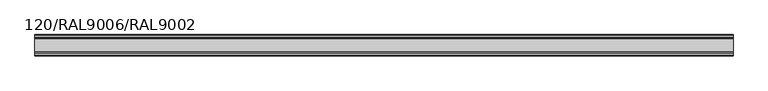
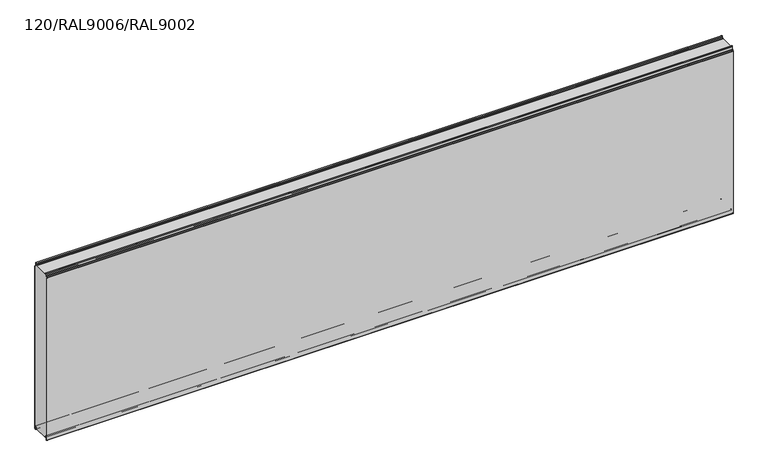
"""IFC4 building model written with IfcOpenShell, lengths in millimetres: plate geometry, TR_C_H_FTV_Panel : 120/RAL9006/RAL9002."""

import ifcopenshell
import ifcopenshell.guid

model = None  # the IFC model being written
_history = None  # IfcOwnerHistory: only IFC2X3 demands one
_inside = {}  # id of a spatial element -> (the spatial element, [elements in it])
_under = {}  # id of a project, library or spatial element -> (it, [spatial elements below it])
_declared = {}  # id of a project -> (the project, [libraries it declares])
_typed = {}  # id of a type object -> (the type object, [elements of that type])
_made_of = {}  # id of a material, layer set ... -> (it, [elements and type objects made of it])


def new_model(schema):
    """Start an empty IFC model of exactly this schema.

    Asked for "IFC4X3", IfcOpenShell would pick the latest addendum, in which some entities
    have other attributes; the version numbers below select the first issue.
    IFC2X3 requires an IfcOwnerHistory on every rooted entity: one is made here for all.
    """
    global model, _history
    if schema == "IFC4X3":
        model = ifcopenshell.file(schema_version=(4, 3, 0, 0))
    else:
        model = ifcopenshell.file(schema=schema)
    _inside.clear()
    _under.clear()
    _declared.clear()
    _typed.clear()
    _made_of.clear()
    _history = None
    if model.schema == "IFC2X3":
        org = make("IfcOrganization", Name="unknown")
        user = make(
            "IfcPersonAndOrganization",
            ThePerson=make("IfcPerson", FamilyName="unknown"),
            TheOrganization=org,
        )
        app = make(
            "IfcApplication",
            ApplicationDeveloper=org,
            Version="unknown",
            ApplicationFullName="unknown",
            ApplicationIdentifier="unknown",
        )
        _history = make(
            "IfcOwnerHistory",
            OwningUser=user,
            OwningApplication=app,
            ChangeAction="ADDED",
            CreationDate=0,
        )
    return model


def make(cls, **values):
    """One entity of the class cls with the attributes given. An attribute that is None is left unset."""
    return model.create_entity(
        cls, **{name: value for name, value in values.items() if value is not None}
    )


def rooted(cls, **values):
    """An entity with a GlobalId (a new one), such as an element, a storey or a relation."""
    return make(cls, GlobalId=ifcopenshell.guid.new(), OwnerHistory=_history, **values)


def si_unit(unit_type, name, prefix=None):
    """IfcSIUnit, for example si_unit("LENGTHUNIT", "METRE", prefix="MILLI")."""
    return make("IfcSIUnit", UnitType=unit_type, Prefix=prefix, Name=name)


def assignment(units):
    """IfcUnitAssignment: the units of a project."""
    return None if units is None else make("IfcUnitAssignment", Units=units)


def point(xyz):
    """IfcCartesianPoint."""
    return None if xyz is None else make("IfcCartesianPoint", Coordinates=xyz)


def direction(xyz):
    """IfcDirection."""
    return None if xyz is None else make("IfcDirection", DirectionRatios=xyz)


def frame(location, z_axis=None, x_axis=None):
    """IfcAxis2Placement3D, a coordinate frame: its origin and axes. An axis left out is left unset."""
    return make(
        "IfcAxis2Placement3D",
        Location=point(location),
        Axis=direction(z_axis),
        RefDirection=direction(x_axis),
    )


def frame_2d(location, x_axis=None):
    """IfcAxis2Placement2D, a coordinate frame in the plane: its origin and x axis."""
    return make(
        "IfcAxis2Placement2D", Location=point(location), RefDirection=direction(x_axis)
    )


def origin():
    """The frame at (0, 0, 0) with its axes left unset."""
    return frame((0.0, 0.0, 0.0))


def place(relative_to, where):
    """IfcLocalPlacement: puts the frame where relative to a parent placement (None: the world)."""
    return make(
        "IfcLocalPlacement", PlacementRelTo=relative_to, RelativePlacement=where
    )


def context(
    kind, dimensions, precision=None, world=None, true_north=None, identifier=None
):
    """IfcGeometricRepresentationContext, for example the 3D "Model" context."""
    return make(
        "IfcGeometricRepresentationContext",
        ContextIdentifier=identifier,
        ContextType=kind,
        CoordinateSpaceDimension=dimensions,
        Precision=precision,
        WorldCoordinateSystem=world,
        TrueNorth=true_north,
    )


def project(units=None, contexts=None):
    """IfcProject with its units and contexts."""
    return rooted(
        "IfcProject",
        Name="project",
        RepresentationContexts=contexts,
        UnitsInContext=assignment(units),
    )


def spatial(cls, under=None, at=None, **own):
    """A site, building, storey or space (cls), placed at a placement, below another one or the project."""
    s = rooted(cls, ObjectPlacement=at, **own)
    if under is not None:
        _under.setdefault(under.id(), (under, []))[1].append(s)
    return s


def polyline(points):
    """IfcPolyline through the points."""
    return make("IfcPolyline", Points=[point(p) for p in points])


def circle_curve(where, radius):
    """IfcCircle in the frame where."""
    return make("IfcCircle", Position=where, Radius=radius)


def trimmed(basis, trim1, trim2, sense, master):
    """IfcTrimmedCurve: the piece of a basis curve between two trims."""
    return make(
        "IfcTrimmedCurve",
        BasisCurve=basis,
        Trim1=trim1,
        Trim2=trim2,
        SenseAgreement=sense,
        MasterRepresentation=master,
    )


def segment(curve, same_sense, transition):
    """IfcCompositeCurveSegment."""
    return make(
        "IfcCompositeCurveSegment",
        Transition=transition,
        SameSense=same_sense,
        ParentCurve=curve,
    )


def composite_curve(segments, self_intersect=None):
    """IfcCompositeCurve: segments joined end to end."""
    return make("IfcCompositeCurve", Segments=segments, SelfIntersect=self_intersect)


def outline(outer, holes=None, kind="AREA"):
    """IfcArbitraryClosedProfileDef: a profile drawn as a closed curve; with holes, ...WithVoids."""
    if holes is None:
        return make("IfcArbitraryClosedProfileDef", ProfileType=kind, OuterCurve=outer)
    return make(
        "IfcArbitraryProfileDefWithVoids",
        ProfileType=kind,
        OuterCurve=outer,
        InnerCurves=holes,
    )


def extrude(swept, where, along, depth):
    """IfcExtrudedAreaSolid: the profile swept, set in the frame where, extruded along a direction by depth."""
    return make(
        "IfcExtrudedAreaSolid",
        SweptArea=swept,
        Position=where,
        ExtrudedDirection=direction(along),
        Depth=depth,
    )


def shape(context_of_items, identifier, shape_type, items):
    """IfcShapeRepresentation: the items that make up one representation, for example the "Body"."""
    return make(
        "IfcShapeRepresentation",
        ContextOfItems=context_of_items,
        RepresentationIdentifier=identifier,
        RepresentationType=shape_type,
        Items=items,
    )


def source(mapping_origin, context_of_items, identifier, shape_type, items):
    """IfcRepresentationMap: a shape defined once, which mapped items show again and again."""
    return make(
        "IfcRepresentationMap",
        MappingOrigin=mapping_origin,
        MappedRepresentation=shape(context_of_items, identifier, shape_type, items),
    )


def transform(
    local_origin,
    x_axis=None,
    y_axis=None,
    z_axis=None,
    scale=None,
    scale2=None,
    scale3=None,
    uniform=True,
):
    """IfcCartesianTransformationOperator3D, or its non-uniform kind. x_axis, y_axis, z_axis: its Axis1, 2, 3."""
    if uniform:
        return make(
            "IfcCartesianTransformationOperator3D",
            Axis1=direction(x_axis),
            Axis2=direction(y_axis),
            LocalOrigin=point(local_origin),
            Scale=scale,
            Axis3=direction(z_axis),
        )
    return make(
        "IfcCartesianTransformationOperator3DnonUniform",
        Axis1=direction(x_axis),
        Axis2=direction(y_axis),
        LocalOrigin=point(local_origin),
        Scale=scale,
        Axis3=direction(z_axis),
        Scale2=scale2,
        Scale3=scale3,
    )


def mapped(mapping_source, mapping_target):
    """IfcMappedItem: shows the shape of a source again, moved by a transform."""
    return make(
        "IfcMappedItem", MappingSource=mapping_source, MappingTarget=mapping_target
    )


def made_of(thing, what):
    """Note that an element or type object is made of a material, layer set ...; save() writes the relation."""
    if what is not None:
        _made_of.setdefault(what.id(), (what, []))[1].append(thing)
    return thing


def element(
    cls,
    number,
    at=None,
    inside=None,
    cuts=None,
    type_object=None,
    material=None,
    context=None,
    identifier="Body",
    shape_type=None,
    held_by="IfcProductDefinitionShape",
    body=None,
    shapes=None,
    **own,
):
    """One element of the class cls, such as IfcWall. Its Tag is "e" and its number.

    at: its placement. inside: the storey or other place that contains it. cuts: it is an
    opening in that element (IfcRelVoidsElement). A single representation is given by context,
    identifier, shape_type and body (its items); several are given by shapes. held_by: the class
    of the entity that holds the representations. save() writes the other relations.
    """
    e = rooted(cls, Tag="e%d" % number, ObjectPlacement=at, **own)
    if body is not None:
        shapes = [shape(context, identifier, shape_type, body)]
    if shapes is not None:
        e.Representation = make(held_by, Representations=shapes)
    if inside is not None:
        _inside.setdefault(inside.id(), (inside, []))[1].append(e)
    if cuts is not None:
        rooted(
            "IfcRelVoidsElement", RelatingBuildingElement=cuts, RelatedOpeningElement=e
        )
    if type_object is not None:
        _typed.setdefault(type_object.id(), (type_object, []))[1].append(e)
    return made_of(e, material)


def aggregate(whole, parts):
    """IfcRelAggregates: a whole, such as a stair, and the parts it consists of."""
    return rooted("IfcRelAggregates", RelatingObject=whole, RelatedObjects=parts)


def save(model, path):
    """Write the relations noted so far, then the file.

    IfcRelAggregates (storeys below a building ...), IfcRelContainedInSpatialStructure (elements
    in a storey), IfcRelDefinesByType, IfcRelAssociatesMaterial and IfcRelDeclares: one each for
    every whole, place, type object, material and project.
    """
    for whole, parts in _under.values():
        aggregate(whole, parts)
    for where, things in _inside.values():
        rooted(
            "IfcRelContainedInSpatialStructure",
            RelatedElements=things,
            RelatingStructure=where,
        )
    for kind, things in _typed.values():
        rooted("IfcRelDefinesByType", RelatedObjects=things, RelatingType=kind)
    for what, things in _made_of.values():
        rooted("IfcRelAssociatesMaterial", RelatedObjects=things, RelatingMaterial=what)
    for by, libraries in _declared.values():
        rooted("IfcRelDeclares", RelatingContext=by, RelatedDefinitions=libraries)
    model.write(path)


def plate_120_ral9006_ral9002_46c4dbfd(model_context):
    return source(origin(), model_context, "Body", "SweptSolid", [
        extrude(outline(composite_curve([segment(polyline([(-0.8, 14.4000012), (-9.45, 14.4000012)]), True, "CONTINUOUS"), segment(trimmed(circle_curve(frame_2d((-9.45, 10.1500012)), 4.25), [point((-9.45, 14.4000012))], [point((-13.635433, 10.8880059))], True, "CARTESIAN"), True, "CONTINUOUS"), segment(polyline([(-13.635433, 10.8880059), (-14.7022582, 4.837739)]), True, "CONTINUOUS"), segment(trimmed(circle_curve(frame_2d((-17.6074411, 5.3500012)), 2.95), [point((-14.7022582, 4.837739))], [point((-17.6074411, 2.4000012))], False, "CARTESIAN"), True, "CONTINUOUS"), segment(polyline([(-17.6074411, 2.4000012), (-23.7, 2.4000012), (-23.7, 1.2e-06), (-96.3, 1.2e-06), (-96.3, 2.4000012), (-102.3925589, 2.4000012)]), True, "CONTINUOUS"), segment(trimmed(circle_curve(frame_2d((-102.3925589, 5.3500012)), 2.95), [point((-102.3925589, 2.4000012))], [point((-105.2977418, 4.837739))], False, "CARTESIAN"), True, "CONTINUOUS"), segment(polyline([(-105.2977418, 4.837739), (-106.364567, 10.8880059)]), True, "CONTINUOUS"), segment(trimmed(circle_curve(frame_2d((-110.55, 10.1500012)), 4.25), [point((-106.364567, 10.8880059))], [point((-110.55, 14.4000012))], True, "CARTESIAN"), True, "CONTINUOUS"), segment(polyline([(-110.55, 14.4000012), (-119.2, 14.4000012), (-119.2, 984.3218266)]), True, "CONTINUOUS"), segment(trimmed(circle_curve(frame_2d((-117.0, 984.3218266)), 2.2), [point((-119.2, 984.3218266))], [point((-118.5556349, 985.8774615))], False, "CARTESIAN"), True, "CONTINUOUS"), segment(polyline([(-118.5556349, 985.8774615), (-114.1665476, 990.2665488)]), True, "CONTINUOUS"), segment(trimmed(circle_curve(frame_2d((-116.5, 992.6000012)), 3.3), [point((-114.1665476, 990.2665488))], [point((-113.2, 992.6000012))], True, "CARTESIAN"), True, "CONTINUOUS"), segment(polyline([(-113.2, 992.6000012), (-113.2, 1000.0), (-6.8, 1000.0), (-6.8, 992.6000012)]), True, "CONTINUOUS"), segment(trimmed(circle_curve(frame_2d((-3.5, 992.6000012)), 3.3), [point((-6.8, 992.6000012))], [point((-5.8334524, 990.2665488))], True, "CARTESIAN"), True, "CONTINUOUS"), segment(polyline([(-5.8334524, 990.2665488), (-1.4443651, 985.8774615)]), True, "CONTINUOUS"), segment(trimmed(circle_curve(frame_2d((-3.0, 984.3218266)), 2.2), [point((-1.4443651, 985.8774615))], [point((-0.8, 984.3218266))], False, "CARTESIAN"), True, "CONTINUOUS"), segment(polyline([(-0.8, 984.3218266), (-0.8, 14.4000012)]), True, "CONTINUOUS")], self_intersect=False)), frame((-1980.0, 0.0, 0.0), z_axis=(1.0, 0.0, 0.0), x_axis=(0.0, 1.0, 0.0)), (0.0, 0.0, 1.0), 3960.0),
        extrude(outline(composite_curve([segment(polyline([(-21.0, 2.4000012), (-17.6074411, 2.4000012)]), True, "CONTINUOUS"), segment(trimmed(circle_curve(frame_2d((-17.6074411, 5.3500012)), 2.95), [point((-17.6074411, 2.4000012))], [point((-14.7022582, 4.837739))], True, "CARTESIAN"), True, "CONTINUOUS"), segment(polyline([(-14.7022582, 4.837739), (-13.635433, 10.8880059)]), True, "CONTINUOUS"), segment(trimmed(circle_curve(frame_2d((-9.45, 10.1500012)), 4.25), [point((-13.635433, 10.8880059))], [point((-5.2, 10.1500012))], False, "CARTESIAN"), True, "CONTINUOUS"), segment(polyline([(-5.2, 10.1500012), (-5.2, -7.4499988)]), True, "CONTINUOUS"), segment(trimmed(circle_curve(frame_2d((-4.05, -7.4499988)), 1.15), [point((-5.2, -7.4499988))], [point((-3.2368272, -8.2631716))], True, "CARTESIAN"), True, "CONTINUOUS"), segment(polyline([(-3.2368272, -8.2631716), (-1.3711418, -6.3974862)]), True, "CONTINUOUS"), segment(trimmed(circle_curve(frame_2d((-2.75, -5.018628)), 1.95), [point((-1.3711418, -6.3974862))], [point((-0.8, -5.018628))], True, "CARTESIAN"), True, "CONTINUOUS"), segment(polyline([(-0.8, -5.018628), (-0.8, 984.3218266)]), True, "CONTINUOUS"), segment(trimmed(circle_curve(frame_2d((-3.0, 984.3218266)), 2.2), [point((-0.8, 984.3218266))], [point((-1.4443651, 985.8774615))], True, "CARTESIAN"), True, "CONTINUOUS"), segment(polyline([(-1.4443651, 985.8774615), (-5.8334524, 990.2665488)]), True, "CONTINUOUS"), segment(trimmed(circle_curve(frame_2d((-3.5, 992.6000012)), 3.3), [point((-5.8334524, 990.2665488))], [point((-6.8, 992.6000012))], False, "CARTESIAN"), True, "CONTINUOUS"), segment(polyline([(-6.8, 992.6000012), (-6.8, 1007.3500012)]), True, "CONTINUOUS"), segment(trimmed(circle_curve(frame_2d((-9.25, 1007.3500012)), 2.45), [point((-6.8, 1007.3500012))], [point((-11.662779, 1007.7754392))], True, "CARTESIAN"), True, "CONTINUOUS"), segment(polyline([(-11.662779, 1007.7754392), (-12.4060919, 1003.559902)]), True, "CONTINUOUS"), segment(trimmed(circle_curve(frame_2d((-16.8869672, 1004.3500012)), 4.55), [point((-12.4060919, 1003.559902))], [point((-16.8869672, 999.8000012))], False, "CARTESIAN"), True, "CONTINUOUS"), segment(polyline([(-16.8869672, 999.8000012), (-21.0, 999.8000012), (-21.0, 1000.6000012), (-16.8869672, 1000.6000012)]), True, "CONTINUOUS"), segment(trimmed(circle_curve(frame_2d((-16.8869672, 1004.3500012)), 3.75), [point((-16.8869672, 1000.6000012))], [point((-13.1939382, 1003.6988205))], True, "CARTESIAN"), True, "CONTINUOUS"), segment(polyline([(-13.1939382, 1003.6988205), (-12.4506252, 1007.9143577)]), True, "CONTINUOUS"), segment(trimmed(circle_curve(frame_2d((-9.25, 1007.3500012)), 3.25), [point((-12.4506252, 1007.9143577))], [point((-6.0, 1007.3500012))], False, "CARTESIAN"), True, "CONTINUOUS"), segment(polyline([(-6.0, 1007.3500012), (-6.0, 992.6000012)]), True, "CONTINUOUS"), segment(trimmed(circle_curve(frame_2d((-3.5, 992.6000012)), 2.5), [point((-6.0, 992.6000012))], [point((-5.267767, 990.8322342))], True, "CARTESIAN"), True, "CONTINUOUS"), segment(polyline([(-5.267767, 990.8322342), (-0.8786797, 986.4431469)]), True, "CONTINUOUS"), segment(trimmed(circle_curve(frame_2d((-3.0, 984.3218266)), 3.0), [point((-0.8786797, 986.4431469))], [point((0.0, 984.3218266))], False, "CARTESIAN"), True, "CONTINUOUS"), segment(polyline([(0.0, 984.3218266), (0.0, -5.018628)]), True, "CONTINUOUS"), segment(trimmed(circle_curve(frame_2d((-2.75, -5.018628)), 2.75), [point((0.0, -5.018628))], [point((-0.8054564, -6.9631716))], False, "CARTESIAN"), True, "CONTINUOUS"), segment(polyline([(-0.8054564, -6.9631716), (-2.6711418, -8.8288571)]), True, "CONTINUOUS"), segment(trimmed(circle_curve(frame_2d((-4.05, -7.4499988)), 1.95), [point((-2.6711418, -8.8288571))], [point((-6.0, -7.4499988))], False, "CARTESIAN"), True, "CONTINUOUS"), segment(polyline([(-6.0, -7.4499988), (-6.0, 10.1500012)]), True, "CONTINUOUS"), segment(trimmed(circle_curve(frame_2d((-9.45, 10.1500012)), 3.45), [point((-6.0, 10.1500012))], [point((-12.8475867, 10.7490874))], True, "CARTESIAN"), True, "CONTINUOUS"), segment(polyline([(-12.8475867, 10.7490874), (-13.914412, 4.6988205)]), True, "CONTINUOUS"), segment(trimmed(circle_curve(frame_2d((-17.6074411, 5.3500012)), 3.75), [point((-13.914412, 4.6988205))], [point((-17.6074411, 1.6000012))], False, "CARTESIAN"), True, "CONTINUOUS"), segment(polyline([(-17.6074411, 1.6000012), (-21.0, 1.6000012), (-21.0, 2.4000012)]), True, "CONTINUOUS")], self_intersect=False)), frame((-1980.0, 0.0, 0.0), z_axis=(1.0, 0.0, 0.0), x_axis=(0.0, 1.0, 0.0)), (0.0, 0.0, 1.0), 3960.0),
        extrude(outline(composite_curve([segment(trimmed(circle_curve(frame_2d((-103.1130328, 1004.3500012)), 4.55), [point((-103.1130328, 999.8000012))], [point((-107.5939081, 1003.559902))], False, "CARTESIAN"), True, "CONTINUOUS"), segment(polyline([(-107.5939081, 1003.559902), (-108.337221, 1007.7754392)]), True, "CONTINUOUS"), segment(trimmed(circle_curve(frame_2d((-110.75, 1007.3500012)), 2.45), [point((-108.337221, 1007.7754392))], [point((-113.2, 1007.3500012))], True, "CARTESIAN"), True, "CONTINUOUS"), segment(polyline([(-113.2, 1007.3500012), (-113.2, 992.6000012)]), True, "CONTINUOUS"), segment(trimmed(circle_curve(frame_2d((-116.5, 992.6000012)), 3.3), [point((-113.2, 992.6000012))], [point((-114.1665476, 990.2665488))], False, "CARTESIAN"), True, "CONTINUOUS"), segment(polyline([(-114.1665476, 990.2665488), (-118.5556349, 985.8774615)]), True, "CONTINUOUS"), segment(trimmed(circle_curve(frame_2d((-117.0, 984.3218266)), 2.2), [point((-118.5556349, 985.8774615))], [point((-119.2, 984.3218266))], True, "CARTESIAN"), True, "CONTINUOUS"), segment(polyline([(-119.2, 984.3218266), (-119.2, -5.018628)]), True, "CONTINUOUS"), segment(trimmed(circle_curve(frame_2d((-117.25, -5.018628)), 1.95), [point((-119.2, -5.018628))], [point((-118.6288582, -6.3974862))], True, "CARTESIAN"), True, "CONTINUOUS"), segment(polyline([(-118.6288582, -6.3974862), (-116.7631728, -8.2631716)]), True, "CONTINUOUS"), segment(trimmed(circle_curve(frame_2d((-115.95, -7.4499988)), 1.15), [point((-116.7631728, -8.2631716))], [point((-114.8, -7.4499988))], True, "CARTESIAN"), True, "CONTINUOUS"), segment(polyline([(-114.8, -7.4499988), (-114.8, 10.1500012)]), True, "CONTINUOUS"), segment(trimmed(circle_curve(frame_2d((-110.55, 10.1500012)), 4.25), [point((-114.8, 10.1500012))], [point((-106.364567, 10.8880059))], False, "CARTESIAN"), True, "CONTINUOUS"), segment(polyline([(-106.364567, 10.8880059), (-105.2977418, 4.837739)]), True, "CONTINUOUS"), segment(trimmed(circle_curve(frame_2d((-102.3925589, 5.3500012)), 2.95), [point((-105.2977418, 4.837739))], [point((-102.3925589, 2.4000012))], True, "CARTESIAN"), True, "CONTINUOUS"), segment(polyline([(-102.3925589, 2.4000012), (-99.0, 2.4000012), (-99.0, 1.6000012), (-102.3925589, 1.6000012)]), True, "CONTINUOUS"), segment(trimmed(circle_curve(frame_2d((-102.3925589, 5.3500012)), 3.75), [point((-102.3925589, 1.6000012))], [point((-106.085588, 4.6988205))], False, "CARTESIAN"), True, "CONTINUOUS"), segment(polyline([(-106.085588, 4.6988205), (-107.1524133, 10.7490874)]), True, "CONTINUOUS"), segment(trimmed(circle_curve(frame_2d((-110.55, 10.1500012)), 3.45), [point((-107.1524133, 10.7490874))], [point((-114.0, 10.1500012))], True, "CARTESIAN"), True, "CONTINUOUS"), segment(polyline([(-114.0, 10.1500012), (-114.0, -7.4499988)]), True, "CONTINUOUS"), segment(trimmed(circle_curve(frame_2d((-115.95, -7.4499988)), 1.95), [point((-114.0, -7.4499988))], [point((-117.3288582, -8.8288571))], False, "CARTESIAN"), True, "CONTINUOUS"), segment(polyline([(-117.3288582, -8.8288571), (-119.1945436, -6.9631716)]), True, "CONTINUOUS"), segment(trimmed(circle_curve(frame_2d((-117.25, -5.018628)), 2.75), [point((-119.1945436, -6.9631716))], [point((-120.0, -5.018628))], False, "CARTESIAN"), True, "CONTINUOUS"), segment(polyline([(-120.0, -5.018628), (-120.0, 984.3218266)]), True, "CONTINUOUS"), segment(trimmed(circle_curve(frame_2d((-117.0, 984.3218266)), 3.0), [point((-120.0, 984.3218266))], [point((-119.1213203, 986.4431469))], False, "CARTESIAN"), True, "CONTINUOUS"), segment(polyline([(-119.1213203, 986.4431469), (-114.732233, 990.8322342)]), True, "CONTINUOUS"), segment(trimmed(circle_curve(frame_2d((-116.5, 992.6000012)), 2.5), [point((-114.732233, 990.8322342))], [point((-114.0, 992.6000012))], True, "CARTESIAN"), True, "CONTINUOUS"), segment(polyline([(-114.0, 992.6000012), (-114.0, 1007.3500012)]), True, "CONTINUOUS"), segment(trimmed(circle_curve(frame_2d((-110.75, 1007.3500012)), 3.25), [point((-114.0, 1007.3500012))], [point((-107.5493748, 1007.9143577))], False, "CARTESIAN"), True, "CONTINUOUS"), segment(polyline([(-107.5493748, 1007.9143577), (-106.8060618, 1003.6988205)]), True, "CONTINUOUS"), segment(trimmed(circle_curve(frame_2d((-103.1130328, 1004.3500012)), 3.75), [point((-106.8060618, 1003.6988205))], [point((-103.1130328, 1000.6000012))], True, "CARTESIAN"), True, "CONTINUOUS"), segment(polyline([(-103.1130328, 1000.6000012), (-99.0, 1000.6000012), (-99.0, 999.8000012), (-103.1130328, 999.8000012)]), True, "CONTINUOUS")], self_intersect=False)), frame((-1980.0, 0.0, 0.0), z_axis=(1.0, 0.0, 0.0), x_axis=(0.0, 1.0, 0.0)), (0.0, 0.0, 1.0), 3960.0),
    ])


if __name__ == "__main__":
    model = new_model("IFC4")
    model_context = context("Model", 3, world=origin())
    ifc_project = project(units=[si_unit("LENGTHUNIT", "METRE", prefix="MILLI")], contexts=[model_context])
    site = spatial("IfcSite", under=ifc_project)
    building = spatial("IfcBuilding", under=site)
    placement = place(None, origin())
    plate_120_ral9006_ral9002_shape = plate_120_ral9006_ral9002_46c4dbfd(model_context)
    element("IfcPlate", 1, ObjectType="TR_C_H_FTV_Panel : 120/RAL9006/RAL9002", at=placement, inside=building, context=model_context, shape_type="MappedRepresentation", body=[
        mapped(plate_120_ral9006_ral9002_shape, transform((0.0, 0.0, 0.0), x_axis=(1.0, 0.0, 0.0), y_axis=(0.0, 1.0, 0.0), z_axis=(0.0, 0.0, 1.0))),
    ])
    save(model, "model.ifc")
